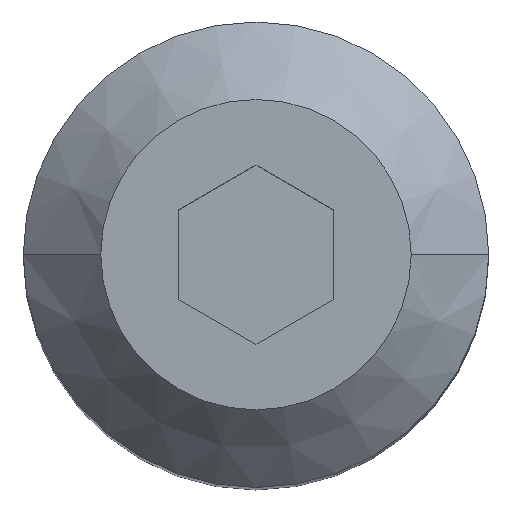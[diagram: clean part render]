
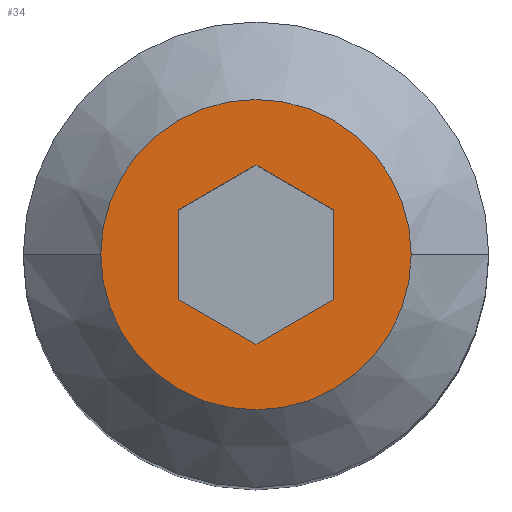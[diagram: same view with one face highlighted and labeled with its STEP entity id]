
A CAD part, top view. The second image highlights one B-rep face of the part: STEP entity #34.
In plain terms, the highlighted planar face has unit normal (0, 0, 1).
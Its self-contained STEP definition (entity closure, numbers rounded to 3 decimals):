
#6 = CARTESIAN_POINT ( 'NONE',  ( 1., 0.577, 22.5 ) ) ;
#22 = DIRECTION ( 'NONE',  ( -0.866, 0.5, 0. ) ) ;
#25 = ORIENTED_EDGE ( 'NONE', *, *, #162, .F. ) ;
#26 = DIRECTION ( 'NONE',  ( -0.866, -0.5, 0. ) ) ;
#34 = ADVANCED_FACE ( 'NONE', ( #280, #351 ), #531, .T. ) ;
#45 = DIRECTION ( 'NONE',  ( 0., 1., 0. ) ) ;
#46 = LINE ( 'NONE', #6, #392 ) ;
#47 = DIRECTION ( 'NONE',  ( 0., 1., 0. ) ) ;
#56 = DIRECTION ( 'NONE',  ( 0., 0., 1. ) ) ;
#57 = DIRECTION ( 'NONE',  ( 0.866, -0.5, 0. ) ) ;
#70 = EDGE_CURVE ( 'NONE', #78, #510, #532, .T. ) ;
#71 = CARTESIAN_POINT ( 'NONE',  ( 1., -0.577, 22.5 ) ) ;
#72 = ORIENTED_EDGE ( 'NONE', *, *, #465, .T. ) ;
#78 = VERTEX_POINT ( 'NONE', #178 ) ;
#82 = AXIS2_PLACEMENT_3D ( 'NONE', #492, #56, #235 ) ;
#99 = CIRCLE ( 'NONE', #134, 2. ) ;
#104 = ORIENTED_EDGE ( 'NONE', *, *, #294, .T. ) ;
#113 = DIRECTION ( 'NONE',  ( 0., 0., 1. ) ) ;
#122 = EDGE_LOOP ( 'NONE', ( #425, #463 ) ) ;
#130 = ORIENTED_EDGE ( 'NONE', *, *, #183, .F. ) ;
#134 = AXIS2_PLACEMENT_3D ( 'NONE', #506, #113, #250 ) ;
#146 = LINE ( 'NONE', #186, #546 ) ;
#162 = EDGE_CURVE ( 'NONE', #203, #163, #146, .T. ) ;
#163 = VERTEX_POINT ( 'NONE', #181 ) ;
#173 = DIRECTION ( 'NONE',  ( 0., 0., 1. ) ) ;
#178 = CARTESIAN_POINT ( 'NONE',  ( -1., 0.577, 22.5 ) ) ;
#181 = CARTESIAN_POINT ( 'NONE',  ( 1., 0.577, 22.5 ) ) ;
#183 = EDGE_CURVE ( 'NONE', #400, #293, #352, .T. ) ;
#186 = CARTESIAN_POINT ( 'NONE',  ( 1., -0.577, 22.5 ) ) ;
#201 = CARTESIAN_POINT ( 'NONE',  ( -1., -0.577, 22.5 ) ) ;
#203 = VERTEX_POINT ( 'NONE', #493 ) ;
#207 = EDGE_CURVE ( 'NONE', #553, #413, #238, .T. ) ;
#221 = DIRECTION ( 'NONE',  ( 1., 0., 0. ) ) ;
#230 = CARTESIAN_POINT ( 'NONE',  ( -1., 0.577, 22.5 ) ) ;
#235 = DIRECTION ( 'NONE',  ( 1., 0., 0. ) ) ;
#238 = CIRCLE ( 'NONE', #490, 2. ) ;
#242 = LINE ( 'NONE', #71, #384 ) ;
#250 = DIRECTION ( 'NONE',  ( 1., 0., 0. ) ) ;
#260 = LINE ( 'NONE', #433, #420 ) ;
#272 = VECTOR ( 'NONE', #57, 1000. ) ;
#280 = FACE_OUTER_BOUND ( 'NONE', #122, .T. ) ;
#286 = CARTESIAN_POINT ( 'NONE',  ( -2., 0., 22.5 ) ) ;
#293 = VERTEX_POINT ( 'NONE', #298 ) ;
#294 = EDGE_CURVE ( 'NONE', #400, #78, #260, .T. ) ;
#298 = CARTESIAN_POINT ( 'NONE',  ( 0., -1.155, 22.5 ) ) ;
#331 = ORIENTED_EDGE ( 'NONE', *, *, #508, .F. ) ;
#342 = CARTESIAN_POINT ( 'NONE',  ( 0., 0., 22.5 ) ) ;
#351 = FACE_BOUND ( 'NONE', #469, .T. ) ;
#352 = LINE ( 'NONE', #485, #272 ) ;
#384 = VECTOR ( 'NONE', #26, 1000. ) ;
#392 = VECTOR ( 'NONE', #22, 1000. ) ;
#400 = VERTEX_POINT ( 'NONE', #201 ) ;
#402 = VECTOR ( 'NONE', #491, 1000. ) ;
#413 = VERTEX_POINT ( 'NONE', #286 ) ;
#420 = VECTOR ( 'NONE', #45, 1000. ) ;
#425 = ORIENTED_EDGE ( 'NONE', *, *, #443, .T. ) ;
#433 = CARTESIAN_POINT ( 'NONE',  ( -1., -0.577, 22.5 ) ) ;
#438 = CARTESIAN_POINT ( 'NONE',  ( 2., 0., 22.5 ) ) ;
#443 = EDGE_CURVE ( 'NONE', #413, #553, #99, .T. ) ;
#463 = ORIENTED_EDGE ( 'NONE', *, *, #207, .T. ) ;
#465 = EDGE_CURVE ( 'NONE', #203, #293, #242, .T. ) ;
#469 = EDGE_LOOP ( 'NONE', ( #130, #104, #558, #331, #25, #72 ) ) ;
#485 = CARTESIAN_POINT ( 'NONE',  ( -1., -0.577, 22.5 ) ) ;
#487 = CARTESIAN_POINT ( 'NONE',  ( 0., 1.155, 22.5 ) ) ;
#490 = AXIS2_PLACEMENT_3D ( 'NONE', #342, #173, #221 ) ;
#491 = DIRECTION ( 'NONE',  ( 0.866, 0.5, 0. ) ) ;
#492 = CARTESIAN_POINT ( 'NONE',  ( 0., 3., 22.5 ) ) ;
#493 = CARTESIAN_POINT ( 'NONE',  ( 1., -0.577, 22.5 ) ) ;
#506 = CARTESIAN_POINT ( 'NONE',  ( 0., 0., 22.5 ) ) ;
#508 = EDGE_CURVE ( 'NONE', #163, #510, #46, .T. ) ;
#510 = VERTEX_POINT ( 'NONE', #487 ) ;
#531 = PLANE ( 'NONE',  #82 ) ;
#532 = LINE ( 'NONE', #230, #402 ) ;
#546 = VECTOR ( 'NONE', #47, 1000. ) ;
#553 = VERTEX_POINT ( 'NONE', #438 ) ;
#558 = ORIENTED_EDGE ( 'NONE', *, *, #70, .T. ) ;
